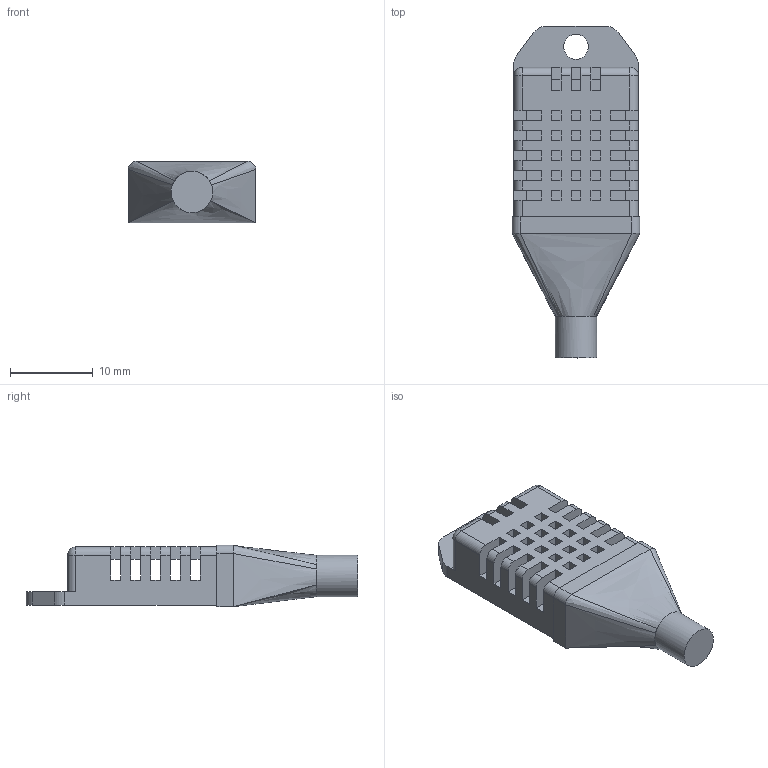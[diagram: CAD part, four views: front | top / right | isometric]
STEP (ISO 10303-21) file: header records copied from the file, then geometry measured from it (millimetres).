
FILE_DESCRIPTION(/* description */ (''),/* implementation_level */ '2;1');
FILE_NAME(/* name */ 'D:\WorkIMT\Project IMT\Флокс-ТВ\v2\Цифровой датчик.stp',/* time_stamp */ '2026-07-17T14:47:11+03:00',/* author */ ('admin'),/* organization */ (''),/* preprocessor_version */ 'ST-DEVELOPER v17.2',/* originating_system */ 'Autodesk Inventor 2019',/* authorisation */ '');
FILE_SCHEMA (('AUTOMOTIVE_DESIGN { 1 0 10303 214 3 1 1 }'));
Length unit declared in the file: millimetre
Products named in the file (3): Цифровой датчик; Sensor; Вторая часть 
датчика
Assembly tree (2 placements, depth 2):
  Цифровой датчик
    Sensor
    Вторая часть 
датчика
Bounding box: 15.4 x 40 x 7.4 mm (x, y, z)
Volume: 2122.1 mm3; surface area: 2596.9 mm2
Topology: 2 solids, 2 shells, 173 faces, 562 edges, 369 vertices
Faces by surface type: plane 134, cylinder 29, bspline 6, sphere 4
Full cylindrical faces by diameter (mm): 3 x1, 5 x1
Entity records: 6442 total; most frequent: CARTESIAN_POINT 1267, ORIENTED_EDGE 1124, DIRECTION 971, EDGE_CURVE 562, LINE 497, VECTOR 497, VERTEX_POINT 369, AXIS2_PLACEMENT_3D 237
